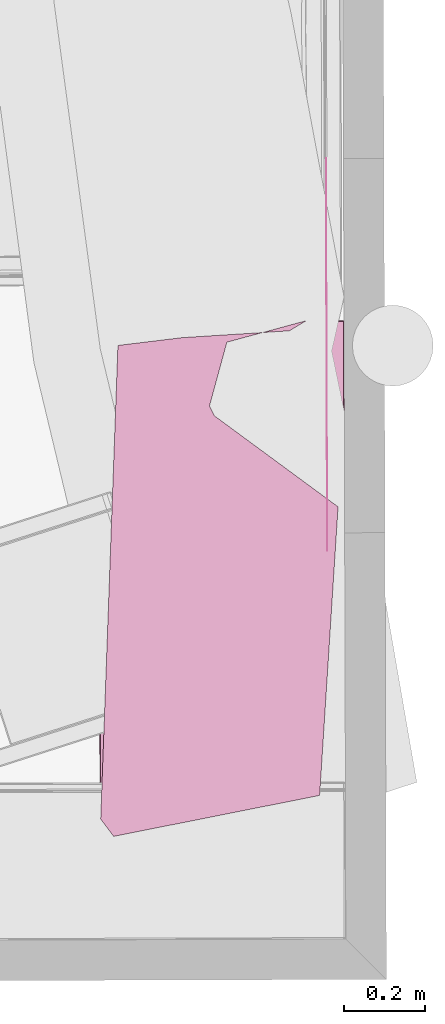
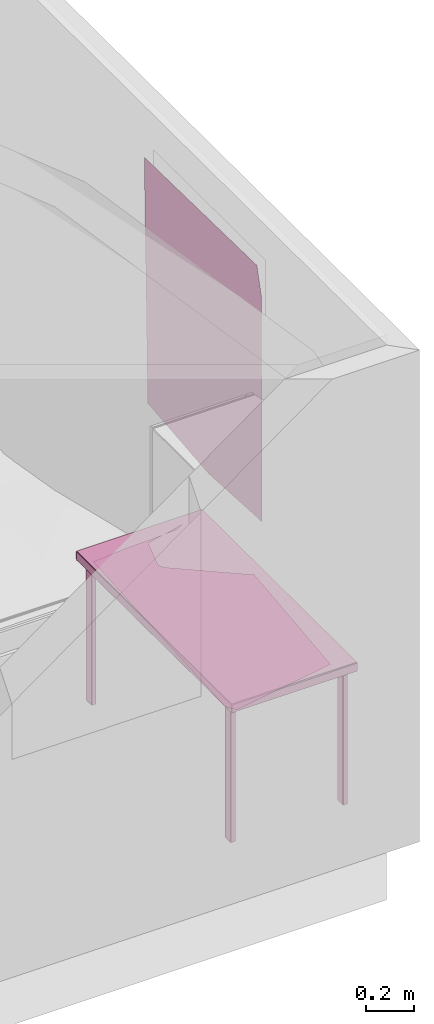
# One storey, part 12 of 15: 3 furniture elements.
"""IFC4 building model written with IfcOpenShell, lengths in metres."""

from ifc_helpers import new_model, si_unit, direction, frame, origin_with_axes, place, context, project, spatial, polygons, shape, type_object, element, save


model = new_model("IFC4")

# Units and contexts
model_context = context("Model", 3, precision=1e-05, world=origin_with_axes(), true_north=direction((-0.077, 0.997, 0.0)))
ifc_project = project(units=[si_unit("AREAUNIT", "SQUARE_METRE"), si_unit("LENGTHUNIT", "METRE")], contexts=[model_context])

# Site, building, storey, space
site_placement = place(None, origin_with_axes())
site = spatial("IfcSite", under=ifc_project, at=site_placement, Name="Site", CompositionType="ELEMENT")
building_placement = place(site_placement, origin_with_axes())
building = spatial("IfcBuilding", under=site, at=building_placement, Name="Building", CompositionType="ELEMENT")
storey_placement = place(building_placement, frame((0.0, 0.0, 5.71135139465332), z_axis=(0.0, 0.0, 1.0), x_axis=(1.0, 0.0, 0.0)))
storey = spatial("IfcBuildingStorey", under=building, at=storey_placement, Name="Story 2", CompositionType="ELEMENT", Elevation=5.71135139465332)
space_placement = place(storey_placement, frame((4.15984517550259, -1.64373686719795, 0.0), z_axis=(0.0, 0.0, 1.0), x_axis=(1.0, 0.0, 0.0)))
space = spatial("IfcSpace", under=storey, at=space_placement, Name="016", CompositionType="ELEMENT")

# Furniture
furniture_type = type_object("IfcFurnitureType", Name="9a80bb62-0e07-46ae-bf02-a1c5f30cef9f", AssemblyPlace="NOTDEFINED", PredefinedType="USERDEFINED")
furniture_1_placement = place(space_placement, frame((2.72126310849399, -2.65032717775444, 0.370553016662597), z_axis=(0.0, 0.0, 0.999999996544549), x_axis=(-0.99999564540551, -0.0029895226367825, 0.0)))
element("IfcFurniture", 1, at=furniture_1_placement, inside=space, type_object=furniture_type, Name="Table", ObjectType="Table", PredefinedType="USERDEFINED", context=model_context, shape_type="Tessellation", body=[
    polygons([(0.3023, 0.6458, 0.3276), (-0.3023, 0.6458, 0.3276), (0.3023, 0.6458, 0.3673), (-0.3023, 0.6458, 0.3673), (0.3023, 0.6458, 0.3673), (-0.3023, 0.6458, 0.3276), (0.2592, -0.5979, 0.3359), (0.2592, -0.5556, 0.3359), (0.2592, -0.5979, -0.3673), (0.2592, -0.5556, -0.3673), (0.2592, -0.5979, -0.3673), (0.2592, -0.5556, 0.3359), (0.2806, -0.6012, 0.3359), (0.2607, -0.6012, 0.3359), (0.2806, -0.6012, -0.3673), (0.2607, -0.6012, -0.3673), (0.2806, -0.6012, -0.3673), (0.2607, -0.6012, 0.3359), (0.2822, -0.5556, 0.3359), (0.2822, -0.5979, 0.3359), (0.2822, -0.5556, -0.3673), (0.2822, -0.5979, -0.3673), (0.2822, -0.5556, -0.3673), (0.2822, -0.5979, 0.3359), (0.2607, -0.5523, 0.3359), (0.2806, -0.5523, 0.3359), (0.2607, -0.5523, -0.3673), (0.2806, -0.5523, -0.3673), (0.2607, -0.5523, -0.3673), (0.2806, -0.5523, 0.3359), (0.2592, 0.5979, 0.3359), (0.2592, 0.5979, -0.3673), (0.2592, 0.5556, 0.3359), (0.2592, 0.5556, -0.3673), (0.2592, 0.5556, 0.3359), (0.2592, 0.5979, -0.3673), (0.2806, 0.6012, 0.3359), (0.2806, 0.6012, -0.3673), (0.2607, 0.6012, 0.3359), (0.2607, 0.6012, -0.3673), (0.2607, 0.6012, 0.3359), (0.2806, 0.6012, -0.3673), (0.2822, 0.5556, 0.3359), (0.2822, 0.5556, -0.3673), (0.2822, 0.5979, 0.3359), (0.2822, 0.5979, -0.3673), (0.2822, 0.5979, 0.3359), (0.2822, 0.5556, -0.3673), (0.2607, 0.5523, 0.3359), (0.2607, 0.5523, -0.3673), (0.2806, 0.5523, 0.3359), (0.2806, 0.5523, -0.3673), (0.2806, 0.5523, 0.3359), (0.2607, 0.5523, -0.3673), (0.3039, 0.6425, 0.3276), (0.3039, 0.6425, 0.3673), (0.3039, -0.6425, 0.3276), (0.3039, -0.6425, 0.3673), (0.3039, -0.6425, 0.3276), (0.3039, 0.6425, 0.3673), (-0.3039, 0.6425, 0.3673), (-0.3039, 0.6425, 0.3276), (-0.3039, -0.6425, 0.3673), (-0.3039, -0.6425, 0.3276), (-0.3039, -0.6425, 0.3673), (-0.3039, 0.6425, 0.3276), (-0.2592, -0.5979, 0.3359), (-0.2592, -0.5979, -0.3673), (-0.2592, -0.5556, 0.3359), (-0.2592, -0.5556, -0.3673), (-0.2592, -0.5556, 0.3359), (-0.2592, -0.5979, -0.3673), (-0.2806, -0.6012, 0.3359), (-0.2806, -0.6012, -0.3673), (-0.2607, -0.6012, 0.3359), (-0.2607, -0.6012, -0.3673), (-0.2607, -0.6012, 0.3359), (-0.2806, -0.6012, -0.3673), (-0.2821, -0.5556, 0.3359), (-0.2821, -0.5556, -0.3673), (-0.2821, -0.5979, 0.3359), (-0.2821, -0.5979, -0.3673), (-0.2821, -0.5979, 0.3359), (-0.2821, -0.5556, -0.3673), (-0.2607, -0.5523, 0.3359), (-0.2607, -0.5523, -0.3673), (-0.2806, -0.5523, 0.3359), (-0.2806, -0.5523, -0.3673), (-0.2806, -0.5523, 0.3359), (-0.2607, -0.5523, -0.3673), (-0.2592, 0.5979, 0.3359), (-0.2592, 0.5556, 0.3359), (-0.2592, 0.5979, -0.3673), (-0.2592, 0.5556, -0.3673), (-0.2592, 0.5979, -0.3673), (-0.2592, 0.5556, 0.3359), (-0.2806, 0.6012, 0.3359), (-0.2607, 0.6012, 0.3359), (-0.2806, 0.6012, -0.3673), (-0.2607, 0.6012, -0.3673), (-0.2806, 0.6012, -0.3673), (-0.2607, 0.6012, 0.3359), (-0.2821, 0.5556, 0.3359), (-0.2821, 0.5979, 0.3359), (-0.2821, 0.5556, -0.3673), (-0.2821, 0.5979, -0.3673), (-0.2821, 0.5556, -0.3673), (-0.2821, 0.5979, 0.3359), (-0.2607, 0.5523, 0.3359), (-0.2806, 0.5523, 0.3359), (-0.2607, 0.5523, -0.3673), (-0.2806, 0.5523, -0.3673), (-0.2607, 0.5523, -0.3673), (-0.2806, 0.5523, 0.3359), (-0.3023, 0.6425, 0.3706), (-0.3023, -0.6425, 0.3706), (0.3023, 0.6425, 0.3706), (0.3023, -0.6425, 0.3706), (0.3023, 0.6425, 0.3706), (-0.3023, -0.6425, 0.3706), (0.3023, -0.6458, 0.3276), (0.3023, -0.6458, 0.3673), (-0.3023, -0.6458, 0.3276), (-0.3023, -0.6458, 0.3673), (-0.3023, -0.6458, 0.3276), (0.3023, -0.6458, 0.3673), (0.3023, -0.6425, 0.3243), (-0.3023, -0.6425, 0.3243), (0.3023, 0.6425, 0.3243), (-0.3023, 0.6425, 0.3243), (0.3023, 0.6425, 0.3243), (-0.3023, -0.6425, 0.3243), (0.2806, -0.5979, 0.3392), (0.2806, -0.5556, 0.3392), (0.2607, -0.5979, 0.3392), (0.2607, -0.5556, 0.3392), (0.2607, -0.5979, 0.3392), (0.2806, -0.5556, 0.3392), (0.2806, -0.5556, -0.3706), (0.2806, -0.5979, -0.3706), (0.2607, -0.5556, -0.3706), (0.2607, -0.5979, -0.3706), (0.2607, -0.5556, -0.3706), (0.2806, -0.5979, -0.3706), (0.2806, 0.5979, -0.3706), (0.2806, 0.5556, -0.3706), (0.2607, 0.5979, -0.3706), (0.2607, 0.5556, -0.3706), (0.2607, 0.5979, -0.3706), (0.2806, 0.5556, -0.3706), (0.2806, 0.5556, 0.3392), (0.2806, 0.5979, 0.3392), (0.2607, 0.5556, 0.3392), (0.2607, 0.5979, 0.3392), (0.2607, 0.5556, 0.3392), (0.2806, 0.5979, 0.3392), (-0.2806, -0.5979, -0.3706), (-0.2806, -0.5556, -0.3706), (-0.2607, -0.5979, -0.3706), (-0.2607, -0.5556, -0.3706), (-0.2607, -0.5979, -0.3706), (-0.2806, -0.5556, -0.3706), (-0.2806, -0.5556, 0.3392), (-0.2806, -0.5979, 0.3392), (-0.2607, -0.5556, 0.3392), (-0.2607, -0.5979, 0.3392), (-0.2607, -0.5556, 0.3392), (-0.2806, -0.5979, 0.3392), (-0.2806, 0.5979, 0.3392), (-0.2806, 0.5556, 0.3392), (-0.2607, 0.5979, 0.3392), (-0.2607, 0.5556, 0.3392), (-0.2607, 0.5979, 0.3392), (-0.2806, 0.5556, 0.3392), (-0.2806, 0.5556, -0.3706), (-0.2806, 0.5979, -0.3706), (-0.2607, 0.5556, -0.3706), (-0.2607, 0.5979, -0.3706), (-0.2607, 0.5556, -0.3706), (-0.2806, 0.5979, -0.3706), (-0.3023, 0.6425, 0.3706), (-0.3023, 0.6458, 0.3673), (-0.3039, 0.6425, 0.3673), (0.2607, -0.5556, -0.3706), (0.2592, -0.5556, -0.3673), (0.2607, -0.5523, -0.3673), (0.2607, -0.5979, -0.3706), (0.2607, -0.6012, -0.3673), (0.2592, -0.5979, -0.3673), (0.2806, -0.5979, -0.3706), (0.2822, -0.5979, -0.3673), (0.2806, -0.6012, -0.3673), (0.2806, -0.5556, -0.3706), (0.2806, -0.5523, -0.3673), (0.2822, -0.5556, -0.3673), (0.2607, -0.5556, 0.3392), (0.2607, -0.5523, 0.3359), (0.2592, -0.5556, 0.3359), (0.2607, 0.5523, -0.3673), (0.2592, 0.5556, -0.3673), (0.2607, 0.5556, -0.3706), (0.2607, 0.5979, 0.3392), (0.2607, 0.6012, 0.3359), (0.2592, 0.5979, 0.3359), (0.2806, 0.5979, 0.3392), (0.2822, 0.5979, 0.3359), (0.2806, 0.6012, 0.3359), (0.2806, 0.5556, 0.3392), (0.2806, 0.5523, 0.3359), (0.2822, 0.5556, 0.3359), (0.3023, -0.6458, 0.3673), (0.3039, -0.6425, 0.3673), (0.3023, -0.6425, 0.3706), (0.3023, 0.6425, 0.3706), (0.3039, 0.6425, 0.3673), (0.3023, 0.6458, 0.3673), (-0.3023, -0.6458, 0.3276), (-0.3039, -0.6425, 0.3276), (-0.3023, -0.6425, 0.3243), (-0.3023, 0.6425, 0.3243), (-0.3039, 0.6425, 0.3276), (-0.3023, 0.6458, 0.3276), (-0.2607, -0.5523, -0.3673), (-0.2592, -0.5556, -0.3673), (-0.2607, -0.5556, -0.3706), (-0.2607, -0.5979, 0.3392), (-0.2607, -0.6012, 0.3359), (-0.2592, -0.5979, 0.3359), (-0.2806, -0.5979, 0.3392), (-0.2821, -0.5979, 0.3359), (-0.2806, -0.6012, 0.3359), (-0.2806, -0.5556, 0.3392), (-0.2806, -0.5523, 0.3359), (-0.2821, -0.5556, 0.3359), (-0.2607, 0.5556, -0.3706), (-0.2592, 0.5556, -0.3673), (-0.2607, 0.5523, -0.3673), (-0.2607, 0.5979, -0.3706), (-0.2607, 0.6012, -0.3673), (-0.2592, 0.5979, -0.3673), (-0.2806, 0.5979, -0.3706), (-0.2821, 0.5979, -0.3673), (-0.2806, 0.6012, -0.3673), (-0.2806, 0.5556, -0.3706), (-0.2806, 0.5523, -0.3673), (-0.2821, 0.5556, -0.3673), (-0.2607, 0.5556, 0.3392), (-0.2607, 0.5523, 0.3359), (-0.2592, 0.5556, 0.3359), (-0.3023, -0.6458, 0.3673), (-0.3023, -0.6425, 0.3706), (-0.3039, -0.6425, 0.3673), (0.3023, -0.6458, 0.3276), (0.3023, -0.6425, 0.3243), (0.3039, -0.6425, 0.3276), (0.3039, 0.6425, 0.3276), (0.3023, 0.6425, 0.3243), (0.3023, 0.6458, 0.3276), (0.2806, -0.5523, 0.3359), (0.2806, -0.5556, 0.3392), (0.2822, -0.5556, 0.3359), (0.2822, -0.5979, 0.3359), (0.2806, -0.5979, 0.3392), (0.2806, -0.6012, 0.3359), (0.2607, -0.6012, 0.3359), (0.2607, -0.5979, 0.3392), (0.2592, -0.5979, 0.3359), (0.2806, 0.5523, -0.3673), (0.2806, 0.5556, -0.3706), (0.2822, 0.5556, -0.3673), (0.2822, 0.5979, -0.3673), (0.2806, 0.5979, -0.3706), (0.2806, 0.6012, -0.3673), (0.2607, 0.6012, -0.3673), (0.2607, 0.5979, -0.3706), (0.2592, 0.5979, -0.3673), (0.2607, 0.5523, 0.3359), (0.2607, 0.5556, 0.3392), (0.2592, 0.5556, 0.3359), (-0.2806, -0.5523, -0.3673), (-0.2806, -0.5556, -0.3706), (-0.2821, -0.5556, -0.3673), (-0.2821, -0.5979, -0.3673), (-0.2806, -0.5979, -0.3706), (-0.2806, -0.6012, -0.3673), (-0.2607, -0.6012, -0.3673), (-0.2607, -0.5979, -0.3706), (-0.2592, -0.5979, -0.3673), (-0.2607, -0.5523, 0.3359), (-0.2607, -0.5556, 0.3392), (-0.2592, -0.5556, 0.3359), (-0.2806, 0.5523, 0.3359), (-0.2806, 0.5556, 0.3392), (-0.2821, 0.5556, 0.3359), (-0.2821, 0.5979, 0.3359), (-0.2806, 0.5979, 0.3392), (-0.2806, 0.6012, 0.3359), (-0.2607, 0.6012, 0.3359), (-0.2607, 0.5979, 0.3392), (-0.2592, 0.5979, 0.3359), (-0.3023, 0.6458, 0.3673), (-0.3023, 0.6458, 0.3276), (-0.3039, 0.6425, 0.3673), (-0.3039, 0.6425, 0.3276), (-0.3039, 0.6425, 0.3673), (-0.3023, 0.6458, 0.3276), (-0.3023, 0.6458, 0.3276), (0.3023, 0.6458, 0.3276), (-0.3023, 0.6425, 0.3243), (0.3023, 0.6425, 0.3243), (-0.3023, 0.6425, 0.3243), (0.3023, 0.6458, 0.3276), (0.3023, 0.6458, 0.3276), (0.3023, 0.6458, 0.3673), (0.3039, 0.6425, 0.3276), (0.3039, 0.6425, 0.3673), (0.3039, 0.6425, 0.3276), (0.3023, 0.6458, 0.3673), (0.3023, 0.6458, 0.3673), (-0.3023, 0.6458, 0.3673), (0.3023, 0.6425, 0.3706), (-0.3023, 0.6425, 0.3706), (0.3023, 0.6425, 0.3706), (-0.3023, 0.6458, 0.3673), (0.2592, -0.5556, -0.3673), (0.2592, -0.5556, 0.3359), (0.2607, -0.5523, -0.3673), (0.2607, -0.5523, 0.3359), (0.2607, -0.5523, -0.3673), (0.2592, -0.5556, 0.3359), (0.2592, -0.5556, 0.3359), (0.2592, -0.5979, 0.3359), (0.2607, -0.5556, 0.3392), (0.2607, -0.5979, 0.3392), (0.2607, -0.5556, 0.3392), (0.2592, -0.5979, 0.3359), (0.2592, -0.5979, 0.3359), (0.2592, -0.5979, -0.3673), (0.2607, -0.6012, 0.3359), (0.2607, -0.6012, -0.3673), (0.2607, -0.6012, 0.3359), (0.2592, -0.5979, -0.3673), (0.2592, -0.5979, -0.3673), (0.2592, -0.5556, -0.3673), (0.2607, -0.5979, -0.3706), (0.2607, -0.5556, -0.3706), (0.2607, -0.5979, -0.3706), (0.2592, -0.5556, -0.3673), (0.2607, -0.6012, 0.3359), (0.2806, -0.6012, 0.3359), (0.2607, -0.5979, 0.3392), (0.2806, -0.5979, 0.3392), (0.2607, -0.5979, 0.3392), (0.2806, -0.6012, 0.3359), (0.2806, -0.6012, 0.3359), (0.2806, -0.6012, -0.3673), (0.2822, -0.5979, 0.3359), (0.2822, -0.5979, -0.3673), (0.2822, -0.5979, 0.3359), (0.2806, -0.6012, -0.3673), (0.2806, -0.6012, -0.3673), (0.2607, -0.6012, -0.3673), (0.2806, -0.5979, -0.3706), (0.2607, -0.5979, -0.3706), (0.2806, -0.5979, -0.3706), (0.2607, -0.6012, -0.3673), (0.2822, -0.5979, 0.3359), (0.2822, -0.5556, 0.3359), (0.2806, -0.5979, 0.3392), (0.2806, -0.5556, 0.3392), (0.2806, -0.5979, 0.3392), (0.2822, -0.5556, 0.3359), (0.2822, -0.5556, 0.3359), (0.2822, -0.5556, -0.3673), (0.2806, -0.5523, 0.3359), (0.2806, -0.5523, -0.3673), (0.2806, -0.5523, 0.3359), (0.2822, -0.5556, -0.3673), (0.2822, -0.5556, -0.3673), (0.2822, -0.5979, -0.3673), (0.2806, -0.5556, -0.3706), (0.2806, -0.5979, -0.3706), (0.2806, -0.5556, -0.3706), (0.2822, -0.5979, -0.3673), (0.2806, -0.5523, 0.3359), (0.2607, -0.5523, 0.3359), (0.2806, -0.5556, 0.3392), (0.2607, -0.5556, 0.3392), (0.2806, -0.5556, 0.3392), (0.2607, -0.5523, 0.3359), (0.2607, -0.5523, -0.3673), (0.2806, -0.5523, -0.3673), (0.2607, -0.5556, -0.3706), (0.2806, -0.5556, -0.3706), (0.2607, -0.5556, -0.3706), (0.2806, -0.5523, -0.3673), (0.2592, 0.5556, -0.3673), (0.2592, 0.5979, -0.3673), (0.2607, 0.5556, -0.3706), (0.2607, 0.5979, -0.3706), (0.2607, 0.5556, -0.3706), (0.2592, 0.5979, -0.3673), (0.2592, 0.5979, -0.3673), (0.2592, 0.5979, 0.3359), (0.2607, 0.6012, -0.3673), (0.2607, 0.6012, 0.3359), (0.2607, 0.6012, -0.3673), (0.2592, 0.5979, 0.3359), (0.2592, 0.5979, 0.3359), (0.2592, 0.5556, 0.3359), (0.2607, 0.5979, 0.3392), (0.2607, 0.5556, 0.3392), (0.2607, 0.5979, 0.3392), (0.2592, 0.5556, 0.3359), (0.2592, 0.5556, 0.3359), (0.2592, 0.5556, -0.3673), (0.2607, 0.5523, 0.3359), (0.2607, 0.5523, -0.3673), (0.2607, 0.5523, 0.3359), (0.2592, 0.5556, -0.3673), (0.2607, 0.6012, -0.3673), (0.2806, 0.6012, -0.3673), (0.2607, 0.5979, -0.3706), (0.2806, 0.5979, -0.3706), (0.2607, 0.5979, -0.3706), (0.2806, 0.6012, -0.3673), (0.2806, 0.6012, -0.3673), (0.2806, 0.6012, 0.3359), (0.2822, 0.5979, -0.3673), (0.2822, 0.5979, 0.3359), (0.2822, 0.5979, -0.3673), (0.2806, 0.6012, 0.3359), (0.2806, 0.6012, 0.3359), (0.2607, 0.6012, 0.3359), (0.2806, 0.5979, 0.3392), (0.2607, 0.5979, 0.3392), (0.2806, 0.5979, 0.3392), (0.2607, 0.6012, 0.3359), (0.2822, 0.5979, -0.3673), (0.2822, 0.5556, -0.3673), (0.2806, 0.5979, -0.3706), (0.2806, 0.5556, -0.3706), (0.2806, 0.5979, -0.3706), (0.2822, 0.5556, -0.3673), (0.2822, 0.5556, -0.3673), (0.2822, 0.5556, 0.3359), (0.2806, 0.5523, -0.3673), (0.2806, 0.5523, 0.3359), (0.2806, 0.5523, -0.3673), (0.2822, 0.5556, 0.3359), (0.2822, 0.5556, 0.3359), (0.2822, 0.5979, 0.3359), (0.2806, 0.5556, 0.3392), (0.2806, 0.5979, 0.3392), (0.2806, 0.5556, 0.3392), (0.2822, 0.5979, 0.3359), (0.2806, 0.5523, -0.3673), (0.2607, 0.5523, -0.3673), (0.2806, 0.5556, -0.3706), (0.2607, 0.5556, -0.3706), (0.2806, 0.5556, -0.3706), (0.2607, 0.5523, -0.3673), (0.2607, 0.5523, 0.3359), (0.2806, 0.5523, 0.3359), (0.2607, 0.5556, 0.3392), (0.2806, 0.5556, 0.3392), (0.2607, 0.5556, 0.3392), (0.2806, 0.5523, 0.3359), (0.3039, -0.6425, 0.3673), (0.3039, 0.6425, 0.3673), (0.3023, -0.6425, 0.3706), (0.3023, 0.6425, 0.3706), (0.3023, -0.6425, 0.3706), (0.3039, 0.6425, 0.3673), (0.3039, 0.6425, 0.3276), (0.3039, -0.6425, 0.3276), (0.3023, 0.6425, 0.3243), (0.3023, -0.6425, 0.3243), (0.3023, 0.6425, 0.3243), (0.3039, -0.6425, 0.3276), (0.3039, -0.6425, 0.3276), (0.3039, -0.6425, 0.3673), (0.3023, -0.6458, 0.3276), (0.3023, -0.6458, 0.3673), (0.3023, -0.6458, 0.3276), (0.3039, -0.6425, 0.3673), (-0.3039, -0.6425, 0.3276), (-0.3039, 0.6425, 0.3276), (-0.3023, -0.6425, 0.3243), (-0.3023, 0.6425, 0.3243), (-0.3023, -0.6425, 0.3243), (-0.3039, 0.6425, 0.3276), (-0.3039, 0.6425, 0.3673), (-0.3039, -0.6425, 0.3673), (-0.3023, 0.6425, 0.3706), (-0.3023, -0.6425, 0.3706), (-0.3023, 0.6425, 0.3706), (-0.3039, -0.6425, 0.3673), (-0.3039, -0.6425, 0.3673), (-0.3039, -0.6425, 0.3276), (-0.3023, -0.6458, 0.3673), (-0.3023, -0.6458, 0.3276), (-0.3023, -0.6458, 0.3673), (-0.3039, -0.6425, 0.3276), (-0.2592, -0.5556, -0.3673), (-0.2592, -0.5979, -0.3673), (-0.2607, -0.5556, -0.3706), (-0.2607, -0.5979, -0.3706), (-0.2607, -0.5556, -0.3706), (-0.2592, -0.5979, -0.3673), (-0.2592, -0.5979, -0.3673), (-0.2592, -0.5979, 0.3359), (-0.2607, -0.6012, -0.3673), (-0.2607, -0.6012, 0.3359), (-0.2607, -0.6012, -0.3673), (-0.2592, -0.5979, 0.3359), (-0.2592, -0.5979, 0.3359), (-0.2592, -0.5556, 0.3359), (-0.2607, -0.5979, 0.3392), (-0.2607, -0.5556, 0.3392), (-0.2607, -0.5979, 0.3392), (-0.2592, -0.5556, 0.3359), (-0.2592, -0.5556, 0.3359), (-0.2592, -0.5556, -0.3673), (-0.2607, -0.5523, 0.3359), (-0.2607, -0.5523, -0.3673), (-0.2607, -0.5523, 0.3359), (-0.2592, -0.5556, -0.3673), (-0.2607, -0.6012, -0.3673), (-0.2806, -0.6012, -0.3673), (-0.2607, -0.5979, -0.3706), (-0.2806, -0.5979, -0.3706), (-0.2607, -0.5979, -0.3706), (-0.2806, -0.6012, -0.3673), (-0.2806, -0.6012, -0.3673), (-0.2806, -0.6012, 0.3359), (-0.2821, -0.5979, -0.3673), (-0.2821, -0.5979, 0.3359), (-0.2821, -0.5979, -0.3673), (-0.2806, -0.6012, 0.3359), (-0.2806, -0.6012, 0.3359), (-0.2607, -0.6012, 0.3359), (-0.2806, -0.5979, 0.3392), (-0.2607, -0.5979, 0.3392), (-0.2806, -0.5979, 0.3392), (-0.2607, -0.6012, 0.3359), (-0.2821, -0.5979, -0.3673), (-0.2821, -0.5556, -0.3673), (-0.2806, -0.5979, -0.3706), (-0.2806, -0.5556, -0.3706), (-0.2806, -0.5979, -0.3706), (-0.2821, -0.5556, -0.3673), (-0.2821, -0.5556, -0.3673), (-0.2821, -0.5556, 0.3359), (-0.2806, -0.5523, -0.3673), (-0.2806, -0.5523, 0.3359), (-0.2806, -0.5523, -0.3673), (-0.2821, -0.5556, 0.3359), (-0.2821, -0.5556, 0.3359), (-0.2821, -0.5979, 0.3359), (-0.2806, -0.5556, 0.3392), (-0.2806, -0.5979, 0.3392), (-0.2806, -0.5556, 0.3392), (-0.2821, -0.5979, 0.3359), (-0.2806, -0.5523, -0.3673), (-0.2607, -0.5523, -0.3673), (-0.2806, -0.5556, -0.3706), (-0.2607, -0.5556, -0.3706), (-0.2806, -0.5556, -0.3706), (-0.2607, -0.5523, -0.3673), (-0.2607, -0.5523, 0.3359), (-0.2806, -0.5523, 0.3359), (-0.2607, -0.5556, 0.3392), (-0.2806, -0.5556, 0.3392), (-0.2607, -0.5556, 0.3392), (-0.2806, -0.5523, 0.3359), (-0.2592, 0.5556, -0.3673), (-0.2592, 0.5556, 0.3359), (-0.2607, 0.5523, -0.3673), (-0.2607, 0.5523, 0.3359), (-0.2607, 0.5523, -0.3673), (-0.2592, 0.5556, 0.3359), (-0.2592, 0.5556, 0.3359), (-0.2592, 0.5979, 0.3359), (-0.2607, 0.5556, 0.3392), (-0.2607, 0.5979, 0.3392), (-0.2607, 0.5556, 0.3392), (-0.2592, 0.5979, 0.3359), (-0.2592, 0.5979, 0.3359), (-0.2592, 0.5979, -0.3673), (-0.2607, 0.6012, 0.3359), (-0.2607, 0.6012, -0.3673), (-0.2607, 0.6012, 0.3359), (-0.2592, 0.5979, -0.3673), (-0.2592, 0.5979, -0.3673), (-0.2592, 0.5556, -0.3673), (-0.2607, 0.5979, -0.3706), (-0.2607, 0.5556, -0.3706), (-0.2607, 0.5979, -0.3706), (-0.2592, 0.5556, -0.3673), (-0.2607, 0.6012, 0.3359), (-0.2806, 0.6012, 0.3359), (-0.2607, 0.5979, 0.3392), (-0.2806, 0.5979, 0.3392), (-0.2607, 0.5979, 0.3392), (-0.2806, 0.6012, 0.3359), (-0.2806, 0.6012, 0.3359), (-0.2806, 0.6012, -0.3673), (-0.2821, 0.5979, 0.3359), (-0.2821, 0.5979, -0.3673), (-0.2821, 0.5979, 0.3359), (-0.2806, 0.6012, -0.3673), (-0.2806, 0.6012, -0.3673), (-0.2607, 0.6012, -0.3673), (-0.2806, 0.5979, -0.3706), (-0.2607, 0.5979, -0.3706), (-0.2806, 0.5979, -0.3706), (-0.2607, 0.6012, -0.3673), (-0.2821, 0.5979, 0.3359), (-0.2821, 0.5556, 0.3359), (-0.2806, 0.5979, 0.3392), (-0.2806, 0.5556, 0.3392), (-0.2806, 0.5979, 0.3392), (-0.2821, 0.5556, 0.3359), (-0.2821, 0.5556, 0.3359), (-0.2821, 0.5556, -0.3673), (-0.2806, 0.5523, 0.3359), (-0.2806, 0.5523, -0.3673), (-0.2806, 0.5523, 0.3359), (-0.2821, 0.5556, -0.3673), (-0.2821, 0.5556, -0.3673), (-0.2821, 0.5979, -0.3673), (-0.2806, 0.5556, -0.3706), (-0.2806, 0.5979, -0.3706), (-0.2806, 0.5556, -0.3706), (-0.2821, 0.5979, -0.3673), (-0.2806, 0.5523, 0.3359), (-0.2607, 0.5523, 0.3359), (-0.2806, 0.5556, 0.3392), (-0.2607, 0.5556, 0.3392), (-0.2806, 0.5556, 0.3392), (-0.2607, 0.5523, 0.3359), (-0.2607, 0.5523, -0.3673), (-0.2806, 0.5523, -0.3673), (-0.2607, 0.5556, -0.3706), (-0.2806, 0.5556, -0.3706), (-0.2607, 0.5556, -0.3706), (-0.2806, 0.5523, -0.3673), (0.3023, -0.6425, 0.3706), (-0.3023, -0.6425, 0.3706), (0.3023, -0.6458, 0.3673), (-0.3023, -0.6458, 0.3673), (0.3023, -0.6458, 0.3673), (-0.3023, -0.6425, 0.3706), (0.3023, -0.6458, 0.3276), (-0.3023, -0.6458, 0.3276), (0.3023, -0.6425, 0.3243), (-0.3023, -0.6425, 0.3243), (0.3023, -0.6425, 0.3243), (-0.3023, -0.6458, 0.3276)], [[[1, 2, 3]], [[4, 5, 6]], [[7, 8, 9]], [[10, 11, 12]], [[13, 14, 15]], [[16, 17, 18]], [[19, 20, 21]], [[22, 23, 24]], [[25, 26, 27]], [[28, 29, 30]], [[31, 32, 33]], [[34, 35, 36]], [[37, 38, 39]], [[40, 41, 42]], [[43, 44, 45]], [[46, 47, 48]], [[49, 50, 51]], [[52, 53, 54]], [[55, 56, 57]], [[58, 59, 60]], [[61, 62, 63]], [[64, 65, 66]], [[67, 68, 69]], [[70, 71, 72]], [[73, 74, 75]], [[76, 77, 78]], [[79, 80, 81]], [[82, 83, 84]], [[85, 86, 87]], [[88, 89, 90]], [[91, 92, 93]], [[94, 95, 96]], [[97, 98, 99]], [[100, 101, 102]], [[103, 104, 105]], [[106, 107, 108]], [[109, 110, 111]], [[112, 113, 114]], [[115, 116, 117]], [[118, 119, 120]], [[121, 122, 123]], [[124, 125, 126]], [[127, 128, 129]], [[130, 131, 132]], [[133, 134, 135]], [[136, 137, 138]], [[139, 140, 141]], [[142, 143, 144]], [[145, 146, 147]], [[148, 149, 150]], [[151, 152, 153]], [[154, 155, 156]], [[157, 158, 159]], [[160, 161, 162]], [[163, 164, 165]], [[166, 167, 168]], [[169, 170, 171]], [[172, 173, 174]], [[175, 176, 177]], [[178, 179, 180]], [[181, 182, 183]], [[184, 185, 186]], [[187, 188, 189]], [[190, 191, 192]], [[193, 194, 195]], [[196, 197, 198]], [[199, 200, 201]], [[202, 203, 204]], [[205, 206, 207]], [[208, 209, 210]], [[211, 212, 213]], [[214, 215, 216]], [[217, 218, 219]], [[220, 221, 222]], [[223, 224, 225]], [[226, 227, 228]], [[229, 230, 231]], [[232, 233, 234]], [[235, 236, 237]], [[238, 239, 240]], [[241, 242, 243]], [[244, 245, 246]], [[247, 248, 249]], [[250, 251, 252]], [[253, 254, 255]], [[256, 257, 258]], [[259, 260, 261]], [[262, 263, 264]], [[265, 266, 267]], [[268, 269, 270]], [[271, 272, 273]], [[274, 275, 276]], [[277, 278, 279]], [[280, 281, 282]], [[283, 284, 285]], [[286, 287, 288]], [[289, 290, 291]], [[292, 293, 294]], [[295, 296, 297]], [[298, 299, 300]], [[301, 302, 303]], [[304, 305, 306]], [[307, 308, 309]], [[310, 311, 312]], [[313, 314, 315]], [[316, 317, 318]], [[319, 320, 321]], [[322, 323, 324]], [[325, 326, 327]], [[328, 329, 330]], [[331, 332, 333]], [[334, 335, 336]], [[337, 338, 339]], [[340, 341, 342]], [[343, 344, 345]], [[346, 347, 348]], [[349, 350, 351]], [[352, 353, 354]], [[355, 356, 357]], [[358, 359, 360]], [[361, 362, 363]], [[364, 365, 366]], [[367, 368, 369]], [[370, 371, 372]], [[373, 374, 375]], [[376, 377, 378]], [[379, 380, 381]], [[382, 383, 384]], [[385, 386, 387]], [[388, 389, 390]], [[391, 392, 393]], [[394, 395, 396]], [[397, 398, 399]], [[400, 401, 402]], [[403, 404, 405]], [[406, 407, 408]], [[409, 410, 411]], [[412, 413, 414]], [[415, 416, 417]], [[418, 419, 420]], [[421, 422, 423]], [[424, 425, 426]], [[427, 428, 429]], [[430, 431, 432]], [[433, 434, 435]], [[436, 437, 438]], [[439, 440, 441]], [[442, 443, 444]], [[445, 446, 447]], [[448, 449, 450]], [[451, 452, 453]], [[454, 455, 456]], [[457, 458, 459]], [[460, 461, 462]], [[463, 464, 465]], [[466, 467, 468]], [[469, 470, 471]], [[472, 473, 474]], [[475, 476, 477]], [[478, 479, 480]], [[481, 482, 483]], [[484, 485, 486]], [[487, 488, 489]], [[490, 491, 492]], [[493, 494, 495]], [[496, 497, 498]], [[499, 500, 501]], [[502, 503, 504]], [[505, 506, 507]], [[508, 509, 510]], [[511, 512, 513]], [[514, 515, 516]], [[517, 518, 519]], [[520, 521, 522]], [[523, 524, 525]], [[526, 527, 528]], [[529, 530, 531]], [[532, 533, 534]], [[535, 536, 537]], [[538, 539, 540]], [[541, 542, 543]], [[544, 545, 546]], [[547, 548, 549]], [[550, 551, 552]], [[553, 554, 555]], [[556, 557, 558]], [[559, 560, 561]], [[562, 563, 564]], [[565, 566, 567]], [[568, 569, 570]], [[571, 572, 573]], [[574, 575, 576]], [[577, 578, 579]], [[580, 581, 582]], [[583, 584, 585]], [[586, 587, 588]], [[589, 590, 591]], [[592, 593, 594]], [[595, 596, 597]], [[598, 599, 600]], [[601, 602, 603]], [[604, 605, 606]], [[607, 608, 609]], [[610, 611, 612]], [[613, 614, 615]], [[616, 617, 618]], [[619, 620, 621]], [[622, 623, 624]], [[625, 626, 627]], [[628, 629, 630]], [[631, 632, 633]], [[634, 635, 636]], [[637, 638, 639]], [[640, 641, 642]], [[643, 644, 645]], [[646, 647, 648]], [[649, 650, 651]], [[652, 653, 654]], [[655, 656, 657]], [[658, 659, 660]]]),
])
furniture_2_placement = place(space_placement, frame((2.42098356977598, -3.23835141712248, 0.693481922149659), z_axis=(0.0, 1.0, 0.0), x_axis=(1.0, 0.0, 0.0)))
element("IfcFurniture", 2, at=furniture_2_placement, inside=space, Name="s2", PredefinedType="USERDEFINED", shapes=[
    shape(model_context, None, "Tessellation", [polygons([(0.0, 0.0, -8.88178419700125e-16), (0.0426035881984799, -0.0116492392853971, 1.17243099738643), (0.201340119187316, -0.00881607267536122, 1.19177543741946), (0.466925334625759, -0.00390961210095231, 1.20850520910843), (0.509038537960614, -0.00337259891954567, 1.23382552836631), (0.312321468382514, -0.00656984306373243, 1.18033609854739), (0.26929916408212, -0.00571899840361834, 1.02283817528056), (0.281661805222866, -0.0052196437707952, 0.9981301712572), (0.587548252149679, 0.00303009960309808, 0.77296239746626), (0.541886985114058, 0.00974964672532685, 0.0587078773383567), (0.0322163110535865, 0.00107062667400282, -0.0426917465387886), (0.400539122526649, -0.00513604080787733, 1.20432340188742)], [[[11, 1, 10]], [[1, 9, 10]], [[9, 1, 8]], [[5, 4, 12]], [[1, 2, 8]], [[7, 2, 3]], [[2, 7, 8]], [[7, 3, 6]], [[3, 12, 6]]])]),
])
furniture_3_placement = place(space_placement, frame((2.98182777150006, -2.57213487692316, 2.17458581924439), z_axis=(-0.00308741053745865, 0.964111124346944, -0.265466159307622), x_axis=(0.00100037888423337, -0.265465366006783, -0.964119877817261)))
element("IfcFurniture", 3, at=furniture_3_placement, inside=space, Name="s6", PredefinedType="USERDEFINED", shapes=[
    shape(model_context, None, "Tessellation", [polygons([(8.88178419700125e-16, 0.0, 8.88178419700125e-16), (1.09958534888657, 0.0, 0.299811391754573), (1.00378685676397, 0.0, 0.732559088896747), (0.81941955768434, -8.88178419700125e-16, 1.20561911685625), (-0.379442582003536, 0.0, 0.903947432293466), (-0.145364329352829, 8.88178419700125e-16, 1.14441789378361e-12)], [[[6, 1, 5]], [[5, 1, 3]], [[5, 3, 4]], [[3, 1, 2]]])]),
])

save(model, "model.ifc")
